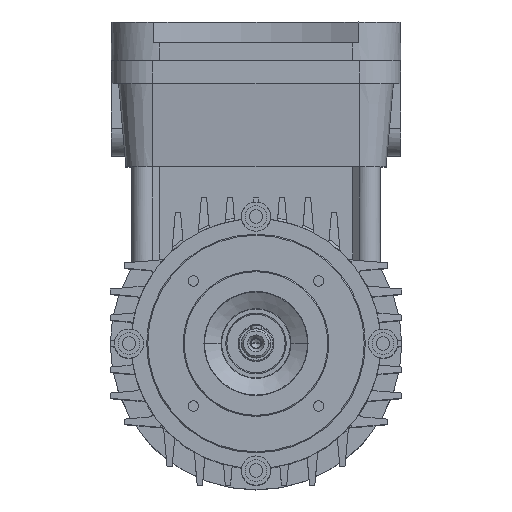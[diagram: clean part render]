
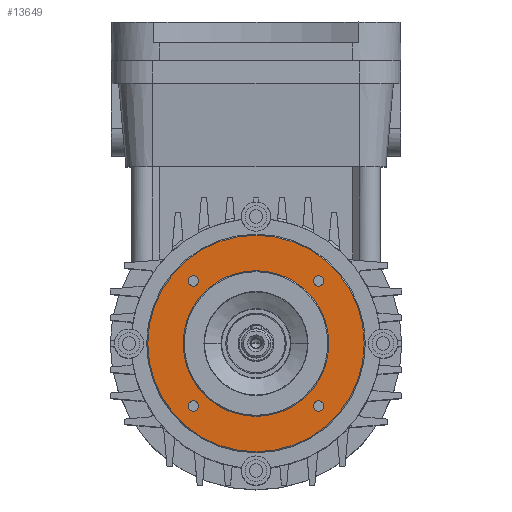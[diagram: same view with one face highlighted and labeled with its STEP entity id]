
A CAD part, top view. The second image highlights one B-rep face of the part: STEP entity #13649.
In plain terms, the highlighted planar face has unit normal (0, 0, 1).
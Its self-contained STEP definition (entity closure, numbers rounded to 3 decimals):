
#93 = DIRECTION ( 'NONE',  ( 0., 0., 1. ) ) ;
#247 = DIRECTION ( 'NONE',  ( 0., 0., 1. ) ) ;
#304 = AXIS2_PLACEMENT_3D ( 'NONE', #9893, #247, #16247 ) ;
#425 = AXIS2_PLACEMENT_3D ( 'NONE', #19079, #20723, #11018 ) ;
#539 = ORIENTED_EDGE ( 'NONE', *, *, #13395, .F. ) ;
#694 = CARTESIAN_POINT ( 'NONE',  ( 52., 0., 170.5 ) ) ;
#781 = ORIENTED_EDGE ( 'NONE', *, *, #3628, .F. ) ;
#989 = CIRCLE ( 'NONE', #8214, 35. ) ;
#1359 = EDGE_CURVE ( 'NONE', #10743, #8029, #18847, .T. ) ;
#1633 = EDGE_CURVE ( 'NONE', #16150, #5519, #3676, .T. ) ;
#1732 = VERTEX_POINT ( 'NONE', #4958 ) ;
#1988 = CARTESIAN_POINT ( 'NONE',  ( 35., 0., 170.5 ) ) ;
#2066 = ORIENTED_EDGE ( 'NONE', *, *, #11936, .F. ) ;
#2414 = ORIENTED_EDGE ( 'NONE', *, *, #7265, .F. ) ;
#2540 = DIRECTION ( 'NONE',  ( -1., 0., 0. ) ) ;
#2552 = DIRECTION ( 'NONE',  ( -1., 0., 0. ) ) ;
#2663 = EDGE_LOOP ( 'NONE', ( #16054, #539 ) ) ;
#2835 = AXIS2_PLACEMENT_3D ( 'NONE', #17337, #20738, #7589 ) ;
#2838 = DIRECTION ( 'NONE',  ( 0., 0., 1. ) ) ;
#2999 = FACE_BOUND ( 'NONE', #9262, .T. ) ;
#3023 = EDGE_LOOP ( 'NONE', ( #15705, #19515 ) ) ;
#3303 = CARTESIAN_POINT ( 'NONE',  ( 32.552, -30.052, 170.5 ) ) ;
#3505 = EDGE_CURVE ( 'NONE', #5793, #8502, #5617, .T. ) ;
#3628 = EDGE_CURVE ( 'NONE', #8429, #3782, #9679, .T. ) ;
#3646 = CIRCLE ( 'NONE', #304, 35. ) ;
#3676 = CIRCLE ( 'NONE', #11631, 2.5 ) ;
#3782 = VERTEX_POINT ( 'NONE', #7419 ) ;
#3957 = CARTESIAN_POINT ( 'NONE',  ( -30.052, -30.052, 170.5 ) ) ;
#4310 = EDGE_CURVE ( 'NONE', #5519, #16150, #6129, .T. ) ;
#4516 = DIRECTION ( 'NONE',  ( 1., 0., 0. ) ) ;
#4816 = AXIS2_PLACEMENT_3D ( 'NONE', #9376, #2838, #6065 ) ;
#4916 = DIRECTION ( 'NONE',  ( 0., 0., -1. ) ) ;
#4938 = ORIENTED_EDGE ( 'NONE', *, *, #12946, .F. ) ;
#4958 = CARTESIAN_POINT ( 'NONE',  ( -27.552, -30.052, 170.5 ) ) ;
#5059 = AXIS2_PLACEMENT_3D ( 'NONE', #3957, #10521, #16864 ) ;
#5294 = AXIS2_PLACEMENT_3D ( 'NONE', #13963, #7400, #2552 ) ;
#5519 = VERTEX_POINT ( 'NONE', #3303 ) ;
#5617 = CIRCLE ( 'NONE', #10318, 52. ) ;
#5722 = FACE_BOUND ( 'NONE', #17860, .T. ) ;
#5793 = VERTEX_POINT ( 'NONE', #20816 ) ;
#5834 = VERTEX_POINT ( 'NONE', #18962 ) ;
#5931 = CARTESIAN_POINT ( 'NONE',  ( -27.552, 30.052, 170.5 ) ) ;
#6065 = DIRECTION ( 'NONE',  ( 1., 0., 0. ) ) ;
#6129 = CIRCLE ( 'NONE', #18576, 2.5 ) ;
#6250 = FACE_BOUND ( 'NONE', #14387, .T. ) ;
#6350 = CARTESIAN_POINT ( 'NONE',  ( 27.552, -30.052, 170.5 ) ) ;
#6353 = CIRCLE ( 'NONE', #9922, 2.5 ) ;
#6423 = CARTESIAN_POINT ( 'NONE',  ( 0., 0., 170.5 ) ) ;
#6485 = PLANE ( 'NONE',  #12490 ) ;
#6784 = ORIENTED_EDGE ( 'NONE', *, *, #9352, .F. ) ;
#7078 = EDGE_LOOP ( 'NONE', ( #11234, #7131 ) ) ;
#7131 = ORIENTED_EDGE ( 'NONE', *, *, #3505, .T. ) ;
#7163 = VERTEX_POINT ( 'NONE', #18296 ) ;
#7172 = DIRECTION ( 'NONE',  ( 0., 0., 1. ) ) ;
#7243 = CARTESIAN_POINT ( 'NONE',  ( 0., 0., 170.5 ) ) ;
#7265 = EDGE_CURVE ( 'NONE', #5834, #14228, #989, .T. ) ;
#7400 = DIRECTION ( 'NONE',  ( 0., 0., 1. ) ) ;
#7419 = CARTESIAN_POINT ( 'NONE',  ( -32.552, 30.052, 170.5 ) ) ;
#7589 = DIRECTION ( 'NONE',  ( -1., 0., 0. ) ) ;
#7755 = CARTESIAN_POINT ( 'NONE',  ( -30.052, 30.052, 170.5 ) ) ;
#7850 = CIRCLE ( 'NONE', #5294, 2.5 ) ;
#8029 = VERTEX_POINT ( 'NONE', #17012 ) ;
#8214 = AXIS2_PLACEMENT_3D ( 'NONE', #7243, #7172, #2540 ) ;
#8230 = CARTESIAN_POINT ( 'NONE',  ( 0., -35., 170.5 ) ) ;
#8429 = VERTEX_POINT ( 'NONE', #5931 ) ;
#8502 = VERTEX_POINT ( 'NONE', #694 ) ;
#8848 = DIRECTION ( 'NONE',  ( -1., 0., 0. ) ) ;
#8991 = FACE_BOUND ( 'NONE', #2663, .T. ) ;
#9262 = EDGE_LOOP ( 'NONE', ( #2066, #781 ) ) ;
#9352 = EDGE_CURVE ( 'NONE', #14228, #5834, #3646, .T. ) ;
#9376 = CARTESIAN_POINT ( 'NONE',  ( 0., 0., 170.5 ) ) ;
#9679 = CIRCLE ( 'NONE', #10742, 2.5 ) ;
#9893 = CARTESIAN_POINT ( 'NONE',  ( 0., 0., 170.5 ) ) ;
#9922 = AXIS2_PLACEMENT_3D ( 'NONE', #7755, #20479, #12407 ) ;
#10221 = CIRCLE ( 'NONE', #4816, 52. ) ;
#10240 = DIRECTION ( 'NONE',  ( 0., 0., 1. ) ) ;
#10318 = AXIS2_PLACEMENT_3D ( 'NONE', #6423, #17432, #4516 ) ;
#10406 = CARTESIAN_POINT ( 'NONE',  ( 30.052, -30.052, 170.5 ) ) ;
#10521 = DIRECTION ( 'NONE',  ( 0., 0., 1. ) ) ;
#10642 = ORIENTED_EDGE ( 'NONE', *, *, #16491, .F. ) ;
#10742 = AXIS2_PLACEMENT_3D ( 'NONE', #13022, #93, #19463 ) ;
#10743 = VERTEX_POINT ( 'NONE', #16597 ) ;
#11018 = DIRECTION ( 'NONE',  ( -1., 0., 0. ) ) ;
#11234 = ORIENTED_EDGE ( 'NONE', *, *, #14436, .T. ) ;
#11534 = FACE_OUTER_BOUND ( 'NONE', #7078, .T. ) ;
#11631 = AXIS2_PLACEMENT_3D ( 'NONE', #10406, #15430, #8848 ) ;
#11936 = EDGE_CURVE ( 'NONE', #3782, #8429, #6353, .T. ) ;
#12407 = DIRECTION ( 'NONE',  ( -1., 0., 0. ) ) ;
#12490 = AXIS2_PLACEMENT_3D ( 'NONE', #8230, #4916, #14784 ) ;
#12946 = EDGE_CURVE ( 'NONE', #1732, #7163, #15656, .T. ) ;
#13022 = CARTESIAN_POINT ( 'NONE',  ( -30.052, 30.052, 170.5 ) ) ;
#13395 = EDGE_CURVE ( 'NONE', #8029, #10743, #7850, .T. ) ;
#13649 = ADVANCED_FACE ( 'NONE', ( #11534, #5722, #2999, #8991, #15580, #6250 ), #6485, .F. ) ;
#13963 = CARTESIAN_POINT ( 'NONE',  ( 30.052, 30.052, 170.5 ) ) ;
#14228 = VERTEX_POINT ( 'NONE', #1988 ) ;
#14387 = EDGE_LOOP ( 'NONE', ( #2414, #6784 ) ) ;
#14436 = EDGE_CURVE ( 'NONE', #8502, #5793, #10221, .T. ) ;
#14784 = DIRECTION ( 'NONE',  ( -1., 0., 0. ) ) ;
#15430 = DIRECTION ( 'NONE',  ( 0., 0., 1. ) ) ;
#15580 = FACE_BOUND ( 'NONE', #3023, .T. ) ;
#15656 = CIRCLE ( 'NONE', #5059, 2.5 ) ;
#15705 = ORIENTED_EDGE ( 'NONE', *, *, #1633, .F. ) ;
#16054 = ORIENTED_EDGE ( 'NONE', *, *, #1359, .F. ) ;
#16150 = VERTEX_POINT ( 'NONE', #6350 ) ;
#16247 = DIRECTION ( 'NONE',  ( -1., 0., 0. ) ) ;
#16491 = EDGE_CURVE ( 'NONE', #7163, #1732, #20537, .T. ) ;
#16597 = CARTESIAN_POINT ( 'NONE',  ( 27.552, 30.052, 170.5 ) ) ;
#16864 = DIRECTION ( 'NONE',  ( -1., 0., 0. ) ) ;
#17012 = CARTESIAN_POINT ( 'NONE',  ( 32.552, 30.052, 170.5 ) ) ;
#17337 = CARTESIAN_POINT ( 'NONE',  ( -30.052, -30.052, 170.5 ) ) ;
#17432 = DIRECTION ( 'NONE',  ( 0., 0., 1. ) ) ;
#17860 = EDGE_LOOP ( 'NONE', ( #10642, #4938 ) ) ;
#18145 = CARTESIAN_POINT ( 'NONE',  ( 30.052, -30.052, 170.5 ) ) ;
#18296 = CARTESIAN_POINT ( 'NONE',  ( -32.552, -30.052, 170.5 ) ) ;
#18576 = AXIS2_PLACEMENT_3D ( 'NONE', #18145, #10240, #19717 ) ;
#18847 = CIRCLE ( 'NONE', #425, 2.5 ) ;
#18962 = CARTESIAN_POINT ( 'NONE',  ( -35., 0., 170.5 ) ) ;
#19079 = CARTESIAN_POINT ( 'NONE',  ( 30.052, 30.052, 170.5 ) ) ;
#19463 = DIRECTION ( 'NONE',  ( -1., 0., 0. ) ) ;
#19515 = ORIENTED_EDGE ( 'NONE', *, *, #4310, .F. ) ;
#19717 = DIRECTION ( 'NONE',  ( -1., 0., 0. ) ) ;
#20479 = DIRECTION ( 'NONE',  ( 0., 0., 1. ) ) ;
#20537 = CIRCLE ( 'NONE', #2835, 2.5 ) ;
#20723 = DIRECTION ( 'NONE',  ( 0., 0., 1. ) ) ;
#20738 = DIRECTION ( 'NONE',  ( 0., 0., 1. ) ) ;
#20816 = CARTESIAN_POINT ( 'NONE',  ( -52., 0., 170.5 ) ) ;
